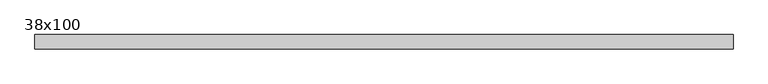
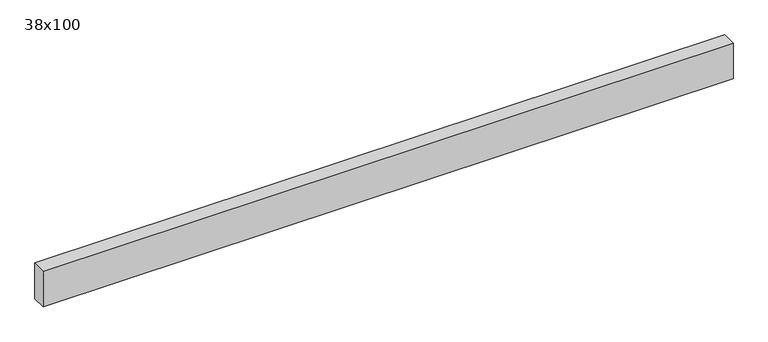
"""IFC4 building model written with IfcOpenShell, lengths in millimetres: beam geometry, Poutre - Bois de construction de dimensions courantes : 38x100."""

from ifc_helpers import new_model, si_unit, frame, origin, place, context, project, spatial, polyline, outline, extrude, source, transform, mapped, element, save


def beam_38x100_425e6dab(model_context):
    return source(origin(), model_context, "Body", "SweptSolid", [
        extrude(outline(polyline([(912.5, 19.05), (912.5, -19.05), (-912.5, -19.05), (-912.5, 19.05), (912.5, 19.05)])), frame((0.0, 0.0, -50.0), z_axis=(0.0, 0.0, 1.0), x_axis=(1.0, 0.0, 0.0)), (0.0, 0.0, 1.0), 100.0),
    ])


if __name__ == "__main__":
    model = new_model("IFC4")
    model_context = context("Model", 3, world=origin())
    ifc_project = project(units=[si_unit("LENGTHUNIT", "METRE", prefix="MILLI")], contexts=[model_context])
    site = spatial("IfcSite", under=ifc_project)
    building = spatial("IfcBuilding", under=site)
    placement = place(None, origin())
    beam_38x100_shape = beam_38x100_425e6dab(model_context)
    element("IfcBeam", 1, ObjectType="Poutre - Bois de construction de dimensions courantes : 38x100", at=placement, inside=building, context=model_context, shape_type="MappedRepresentation", body=[
        mapped(beam_38x100_shape, transform((0.0, 0.0, 0.0), x_axis=(1.0, 0.0, 0.0), y_axis=(0.0, 1.0, 0.0), z_axis=(0.0, 0.0, 1.0))),
    ])
    save(model, "model.ifc")
